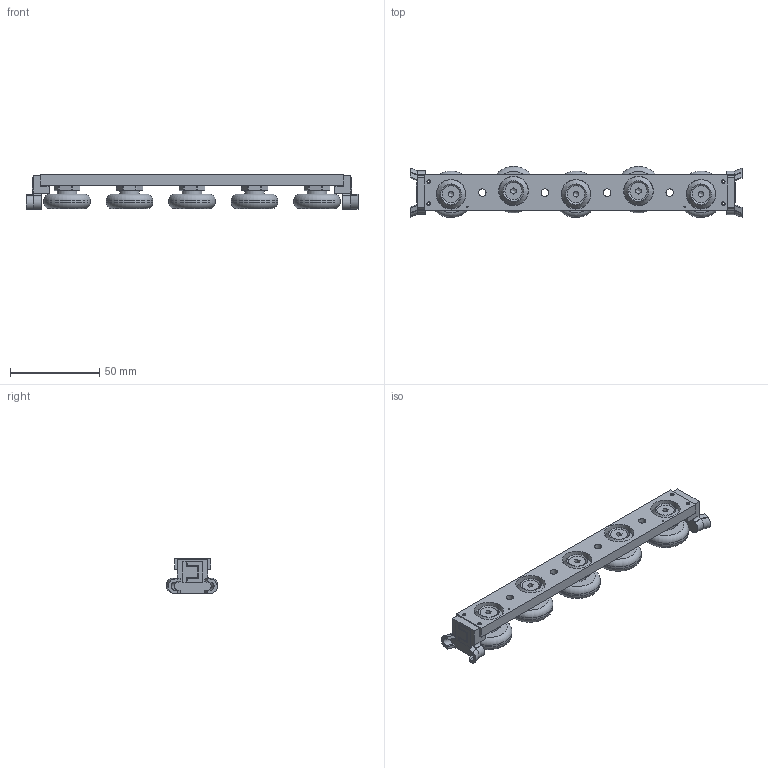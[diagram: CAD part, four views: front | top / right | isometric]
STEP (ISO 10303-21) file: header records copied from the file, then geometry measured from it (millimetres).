
FILE_DESCRIPTION (( 'STEP AP214' ), '1' );
FILE_NAME ('RLS33-5-A.STEP', '2022-02-01T10:24:44', ( '' ), ( '' ), 'SwSTEP 2.0', 'SolidWorks 2019', '' );
FILE_SCHEMA (( 'AUTOMOTIVE_DESIGN' ));
Length unit declared in the file: millimetre
Products named in the file (8): 32425; RLS33-5-A; 11682_01; 32426; 11686_01; 39042; 38617; DIN 7991 - M5 x 12 (schwarz01)_DIN 7991 - M5 x 12 --- 12C_phosphatiert
Assembly tree (22 placements, depth 2):
  RLS33-5-A
    11682_01
    32425  x3
    32426  x2
    11686_01  x5
    DIN 7991 - M5 x 12 (schwarz01)_DIN 7991 - M5 x 12 --- 12C_phosphatiert  x5
    39042  x4
    38617  x2
Bounding box: 186 x 28.6 x 19.5 mm (x, y, z)
Volume: 44903.8 mm3; surface area: 27582.8 mm2
Topology: 22 solids, 22 shells, 557 faces, 1205 edges, 712 vertices
Faces by surface type: plane 404, cylinder 85, cone 41, torus 15, bspline 12
Full cylindrical faces by diameter (mm): 1 x2, 2 x4, 4.2 x9, 5 x5, 9 x10, 9.64 x5, 11 x5, 16 x5, 16.6 x5, 26 x5
Entity records: 6480 total; most frequent: CARTESIAN_POINT 1061, DIRECTION 1049, ORIENTED_EDGE 902, EDGE_CURVE 451, AXIS2_PLACEMENT_3D 359, VECTOR 331, LINE 331, EDGE_LOOP 316
